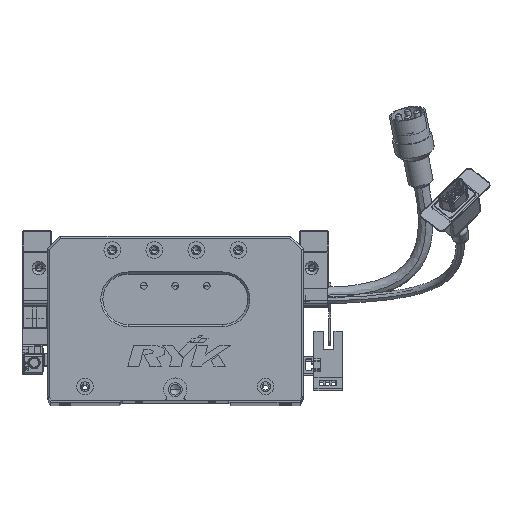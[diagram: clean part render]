
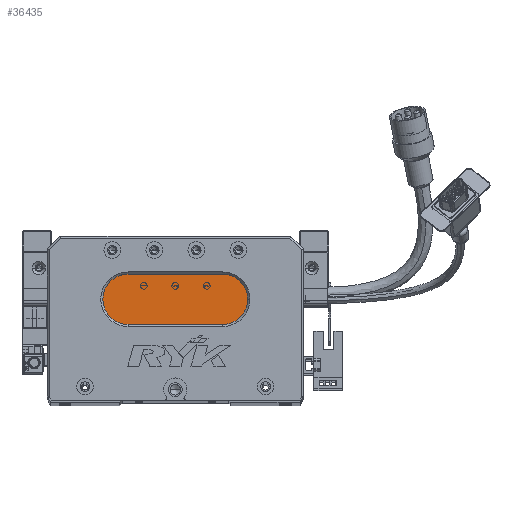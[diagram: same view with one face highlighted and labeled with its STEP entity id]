
A CAD part, top view. The second image highlights one B-rep face of the part: STEP entity #36435.
In plain terms, the highlighted planar face has unit normal (0, 0, 1) as drawn and (0, 0, -1) by its records, which use the part's own axes.
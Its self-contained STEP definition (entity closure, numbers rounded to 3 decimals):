
#320 = DIRECTION ( 'NONE',  ( 0., 0., -1. ) ) ;
#543 = VECTOR ( 'NONE', #31633, 1000. ) ;
#1372 = VERTEX_POINT ( 'NONE', #35887 ) ;
#1961 = CARTESIAN_POINT ( 'NONE',  ( 83.5, 60., 13. ) ) ;
#4355 = CARTESIAN_POINT ( 'NONE',  ( 38.5, 48., 13. ) ) ;
#7766 = VERTEX_POINT ( 'NONE', #1961 ) ;
#9154 = CARTESIAN_POINT ( 'NONE',  ( 83.5, 60., 13. ) ) ;
#12237 = LINE ( 'NONE', #9154, #61943 ) ;
#12665 = AXIS2_PLACEMENT_3D ( 'NONE', #4355, #34849, #16913 ) ;
#15202 = CARTESIAN_POINT ( 'NONE',  ( 38.5, 36., 13. ) ) ;
#16913 = DIRECTION ( 'NONE',  ( -1., 0., 0. ) ) ;
#18772 = CARTESIAN_POINT ( 'NONE',  ( 83.5, 36., 13. ) ) ;
#21894 = VERTEX_POINT ( 'NONE', #34188 ) ;
#26694 = DIRECTION ( 'NONE',  ( -1., 0., 0. ) ) ;
#29580 = DIRECTION ( 'NONE',  ( -1., 0., 0. ) ) ;
#30793 = CARTESIAN_POINT ( 'NONE',  ( 83.5, 48., 13. ) ) ;
#31633 = DIRECTION ( 'NONE',  ( -1., 0., 0. ) ) ;
#34188 = CARTESIAN_POINT ( 'NONE',  ( 83.5, 36., 13. ) ) ;
#34569 = CIRCLE ( 'NONE', #35745, 12. ) ;
#34849 = DIRECTION ( 'NONE',  ( 0., 0., -1. ) ) ;
#35193 = CARTESIAN_POINT ( 'NONE',  ( 38.5, 48., 13. ) ) ;
#35745 = AXIS2_PLACEMENT_3D ( 'NONE', #35193, #53643, #29580 ) ;
#35778 = VERTEX_POINT ( 'NONE', #15202 ) ;
#35887 = CARTESIAN_POINT ( 'NONE',  ( 26.5, 48., 13. ) ) ;
#36435 = ADVANCED_FACE ( 'NONE', ( #51539 ), #63547, .T. ) ;
#38462 = DIRECTION ( 'NONE',  ( 0., 0., -1. ) ) ;
#41921 = EDGE_CURVE ( 'NONE', #70478, #7766, #12237, .T. ) ;
#46042 = ORIENTED_EDGE ( 'NONE', *, *, #58561, .T. ) ;
#46047 = ORIENTED_EDGE ( 'NONE', *, *, #66735, .T. ) ;
#51539 = FACE_OUTER_BOUND ( 'NONE', #72657, .T. ) ;
#53643 = DIRECTION ( 'NONE',  ( 0., 0., -1. ) ) ;
#57732 = EDGE_CURVE ( 'NONE', #1372, #70478, #34569, .T. ) ;
#58561 = EDGE_CURVE ( 'NONE', #7766, #21894, #73616, .T. ) ;
#58880 = ORIENTED_EDGE ( 'NONE', *, *, #66963, .T. ) ;
#60692 = ORIENTED_EDGE ( 'NONE', *, *, #41921, .T. ) ;
#60888 = AXIS2_PLACEMENT_3D ( 'NONE', #30793, #320, #69257 ) ;
#61830 = AXIS2_PLACEMENT_3D ( 'NONE', #63030, #38462, #26694 ) ;
#61943 = VECTOR ( 'NONE', #64744, 1000. ) ;
#62740 = LINE ( 'NONE', #18772, #543 ) ;
#63030 = CARTESIAN_POINT ( 'NONE',  ( 83.5, 48., 13. ) ) ;
#63547 = PLANE ( 'NONE',  #61830 ) ;
#63747 = CIRCLE ( 'NONE', #12665, 12. ) ;
#64744 = DIRECTION ( 'NONE',  ( 1., 0., 0. ) ) ;
#66735 = EDGE_CURVE ( 'NONE', #35778, #1372, #63747, .T. ) ;
#66963 = EDGE_CURVE ( 'NONE', #21894, #35778, #62740, .T. ) ;
#69257 = DIRECTION ( 'NONE',  ( -1., 0., 0. ) ) ;
#70478 = VERTEX_POINT ( 'NONE', #72850 ) ;
#72657 = EDGE_LOOP ( 'NONE', ( #46042, #58880, #46047, #77948, #60692 ) ) ;
#72850 = CARTESIAN_POINT ( 'NONE',  ( 38.5, 60., 13. ) ) ;
#73616 = CIRCLE ( 'NONE', #60888, 12. ) ;
#77948 = ORIENTED_EDGE ( 'NONE', *, *, #57732, .T. ) ;
